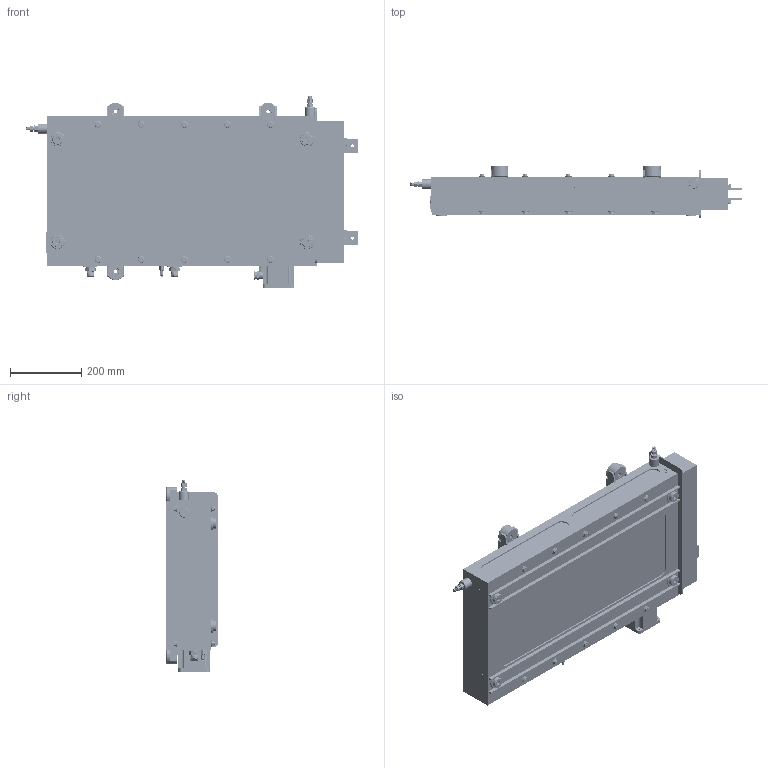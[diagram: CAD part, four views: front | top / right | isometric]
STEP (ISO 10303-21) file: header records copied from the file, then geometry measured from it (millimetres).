
FILE_DESCRIPTION (( 'STEP AP203' ), '1' );
FILE_NAME ('倳昃1-B ip21.STEP', '2024-04-04T11:58:43', ( '' ), ( '' ), 'SwSTEP 2.0', 'SolidWorks 2020', '' );
FILE_SCHEMA (( 'CONFIG_CONTROL_DESIGN' ));
Products named in the file (1): 倳昃1-B ip21
Bounding box: 934.18 x 145 x 542.38 mm (x, y, z)
Volume: 31946424.7 mm3; surface area: 2509218.5 mm2
Topology: 121 solids, 158 shells, 5696 faces, 14278 edges, 9117 vertices
Faces by surface type: cylinder 2526, plane 2185, torus 396, cone 299, bspline 250, sphere 40
Entity records: 287756 total; most frequent: CARTESIAN_POINT 159100, ORIENTED_EDGE 28380, DIRECTION 25462, EDGE_CURVE 14190, AXIS2_PLACEMENT_3D 9304, VERTEX_POINT 9117, VECTOR 6854, LINE 6854
